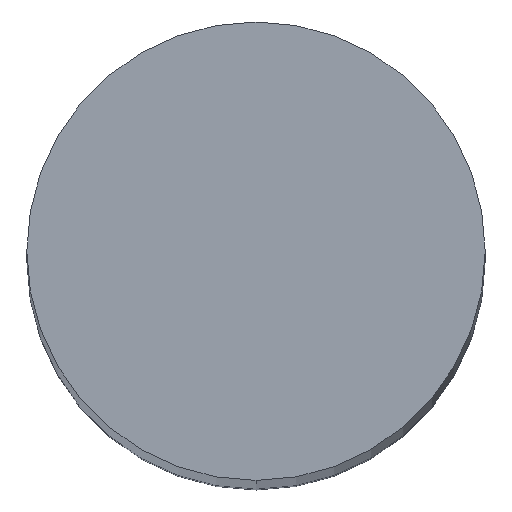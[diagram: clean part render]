
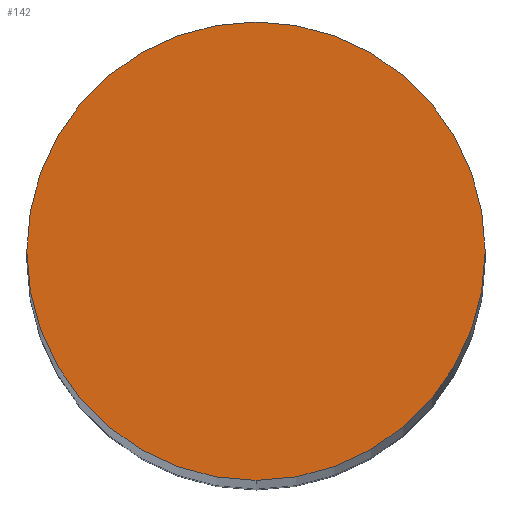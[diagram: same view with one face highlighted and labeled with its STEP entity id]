
A CAD part, top view. The second image highlights one B-rep face of the part: STEP entity #142.
In plain terms, the highlighted planar face has unit normal (0, 0, 1).
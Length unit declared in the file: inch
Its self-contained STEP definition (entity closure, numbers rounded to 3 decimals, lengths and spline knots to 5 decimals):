
#95=CARTESIAN_POINT('',(0.0,-0.0625,1.5));
#96=VERTEX_POINT('',#95);
#104=CARTESIAN_POINT('',(0.0,0.0625,1.5));
#105=VERTEX_POINT('',#104);
#112=CARTESIAN_POINT('',(0.0,0.0,1.5));
#113=DIRECTION('',(0.0,-0.0,-1.0));
#114=DIRECTION('',(0.0,1.0,-0.0));
#115=AXIS2_PLACEMENT_3D('',#112,#113,#114);
#116=CIRCLE('',#115,0.0625);
#117=EDGE_CURVE('no 989',#105,#96,#116,.T.);
#127=CARTESIAN_POINT('',(0.0,0.0,1.5));
#128=DIRECTION('',(0.0,-0.0,-1.0));
#129=DIRECTION('',(0.0,1.0,-0.0));
#130=AXIS2_PLACEMENT_3D('',#127,#128,#129);
#131=CIRCLE('',#130,0.0625);
#132=EDGE_CURVE('no 993',#96,#105,#131,.T.);
#133=ORIENTED_EDGE('',*,*,#132,.F.);
#134=ORIENTED_EDGE('',*,*,#117,.F.);
#135=EDGE_LOOP('',(#133,#134));
#136=FACE_OUTER_BOUND('',#135,.T.);
#137=CARTESIAN_POINT('',(0.0625,0.0,1.5));
#138=DIRECTION('',(0.0,0.0,1.0));
#139=DIRECTION('',(0.0,-1.0,0.0));
#140=AXIS2_PLACEMENT_3D('',#137,#138,#139);
#141=PLANE('',#140);
#142=ADVANCED_FACE('no 1059',(#136),#141,.T.);
